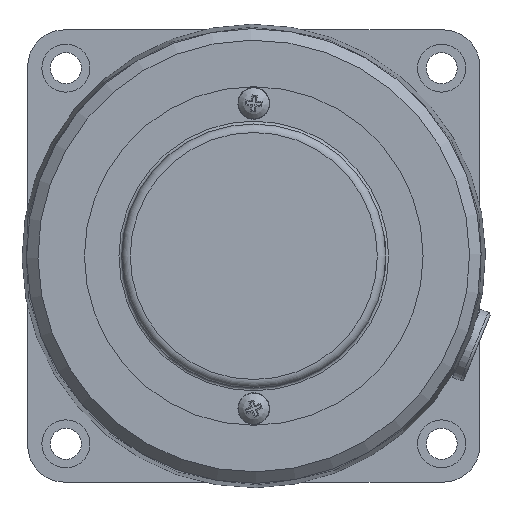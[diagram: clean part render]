
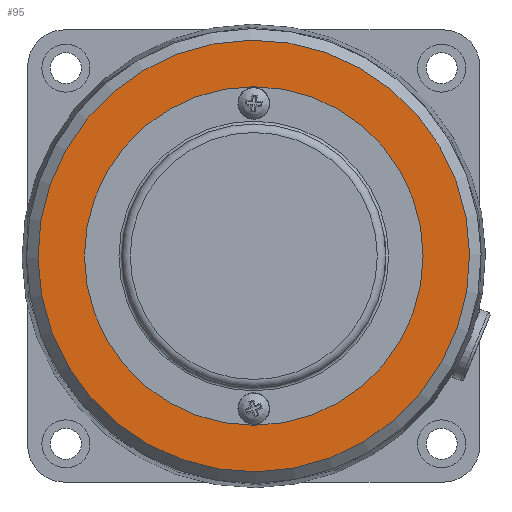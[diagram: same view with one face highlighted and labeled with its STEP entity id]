
A CAD part, left-side view. The second image highlights one B-rep face of the part: STEP entity #95.
In plain terms, the highlighted planar face has unit normal (-1, 0, 0).
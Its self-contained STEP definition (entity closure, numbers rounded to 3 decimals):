
#68=CARTESIAN_POINT('',(-38.5,0.,0.));
#69=DIRECTION('',(-1.0,0.0,0.0));
#70=DIRECTION('',(0.0,-0.861,0.509));
#71=AXIS2_PLACEMENT_3D('',#68,#69,#70);
#72=PLANE('',#71);
#73=CARTESIAN_POINT('',(-38.5,32.858,-19.443));
#74=VERTEX_POINT('',#73);
#75=CARTESIAN_POINT('',(-38.5,0.,0.));
#76=DIRECTION('',(1.0,0.,0.));
#77=DIRECTION('',(0.,-0.861,0.509));
#78=AXIS2_PLACEMENT_3D('',#75,#76,#77);
#79=CIRCLE('',#78,38.18);
#80=EDGE_CURVE('',#74,#74,#79,.T.);
#81=ORIENTED_EDGE('',*,*,#80,.F.);
#82=EDGE_LOOP('',(#81));
#83=FACE_OUTER_BOUND('',#82,.T.);
#84=CARTESIAN_POINT('',(-38.5,0.,29.95));
#85=VERTEX_POINT('',#84);
#86=CARTESIAN_POINT('',(-38.5,0.,0.));
#87=DIRECTION('',(-1.0,0.0,0.0));
#88=DIRECTION('',(0.0,0.0,-1.0));
#89=AXIS2_PLACEMENT_3D('',#86,#87,#88);
#90=CIRCLE('',#89,29.95);
#91=EDGE_CURVE('',#85,#85,#90,.T.);
#92=ORIENTED_EDGE('',*,*,#91,.F.);
#93=EDGE_LOOP('',(#92));
#94=FACE_BOUND('',#93,.T.);
#95=ADVANCED_FACE('',(#83,#94),#72,.T.);
